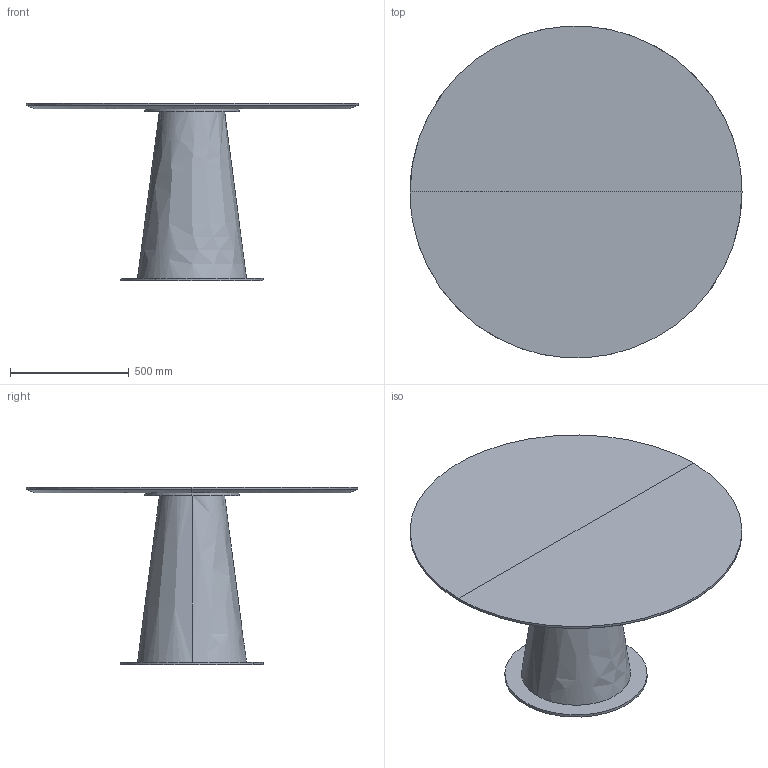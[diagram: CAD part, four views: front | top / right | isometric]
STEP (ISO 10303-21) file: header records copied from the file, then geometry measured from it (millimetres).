
FILE_DESCRIPTION(/* description */ (''),/* implementation_level */ '2;1');
FILE_NAME(/* name */ 'RW3JBF~9',/* time_stamp */ '2022-08-18T07:25:45+02:00',/* author */ (''),/* organization */ (''),/* preprocessor_version */ 'ST-DEVELOPER v16.5',/* originating_system */ '',/* authorisation */ '');
FILE_SCHEMA (('AUTOMOTIVE_DESIGN'));
Length unit declared in the file: millimetre
Products named in the file (1): Document
Bounding box: 1400 x 1397.46 x 750 mm (x, y, z)
Volume: 47068257.9 mm3; surface area: 7622437.8 mm2
Topology: 6 solids, 7 shells, 65 faces, 170 edges, 111 vertices
Faces by surface type: bspline 56, plane 9
Entity records: 2678 total; most frequent: CARTESIAN_POINT 1764, ORIENTED_EDGE 302, EDGE_CURVE 152, VERTEX_POINT 99, EDGE_LOOP 98, ADVANCED_FACE 65, FACE_OUTER_BOUND 65, FACE_BOUND 33
